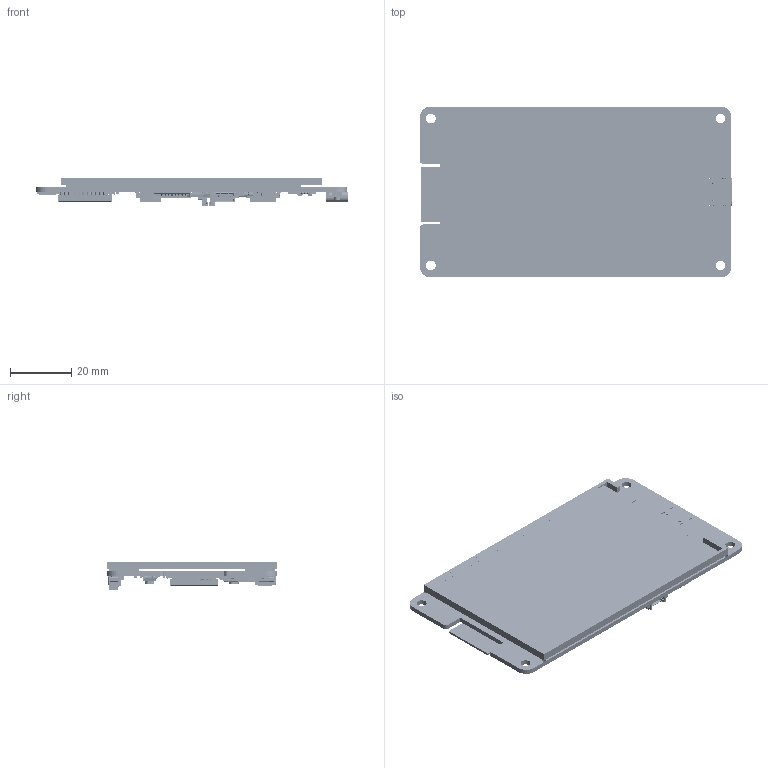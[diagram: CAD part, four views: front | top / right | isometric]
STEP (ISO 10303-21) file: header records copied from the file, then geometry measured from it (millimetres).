
FILE_DESCRIPTION(('Open CASCADE Model'),'2;1');
FILE_NAME('Open CASCADE Shape Model','2024-08-23T15:34:17',('Author'),( 'Open CASCADE'),'Open CASCADE STEP processor 6.8','Open CASCADE 6.8' ,'Unknown');
FILE_SCHEMA(('AUTOMOTIVE_DESIGN { 1 0 10303 214 1 1 1 1 }'));
Length unit declared in the file: millimetre
Products named in the file (324): PCB; Board; Open CASCADE STEP translator 6.8 2.1.1; Open CASCADE STEP translator 6.8 2.1.1.1; R23; 5989626112; R34; R33; R31; 5989622672; R30; 5989629632; R29; Q5; 5989620272; U2; ESP32-WROOM-32E_20210903; ESP32-WROOM-32E_20210903.STEP; PCB_ESP32-WROOM-32E_V1(2)^PCB_ESP32-WROOM-32E_V1.STEP; DesignRootModel^PCB_ESP32-WROOM-32E_V1(2)_PCB_ESP32-WROOM-32E_V1.STEP; Submodel-SLP48_5X5_part^DesignRootModel_PCB_ESP32-WROOM-32E_V1(2)_PCB_
ESP32-WROOM-32E_V1.STEP; ESP32_5x5_20210301.STEP^Submodel-SLP48_5X5_part_DesignRootModel_PCB_
ESP32-WROOM-32E_V1(2)_PCB_ESP32-WROOM-32E_V1.STEP; ESP32_5x5_20210301.STEP^ESP32_5x5_20210301.STEP_Submodel-SLP48_5X5_
part_DesignRootModel_PCB_ESP32-WROOM-32E_V1(2)_PCB_ESP32-WROOM-32E_
V1.STEP; Submodel-ANT_L_TYPEA_1501846164_part^DesignRootModel_PCB_
ESP32-WROOM-32E_V1(2)_PCB_ESP32-WROOM-32E_V1.STEP; trace_1^Submodel-ANT_L_TYPEA_1501846164_part_DesignRootModel_PCB_
ESP32-WROOM-32E_V1(2)_PCB_ESP32-WROOM-32E_V1.STEP; Submodel-SOD882_part^DesignRootModel_PCB_ESP32-WROOM-32E_V1(2)_PCB_
ESP32-WROOM-32E_V1.STEP; DFN1006.STEP^Submodel-SOD882_part_DesignRootModel_PCB_ESP32-WROOM-32E_
V1(2)_PCB_ESP32-WROOM-32E_V1.STEP; DFN1006.STEP^DFN1006.STEP_Submodel-SOD882_part_DesignRootModel_PCB_
ESP32-WROOM-32E_V1(2)_PCB_ESP32-WROOM-32E_V1.STEP; Submodel-R0201_part^DesignRootModel_PCB_ESP32-WROOM-32E_V1(2)_PCB_
ESP32-WROOM-32E_V1.STEP; R0201_20210301.STEP^Submodel-R0201_part_DesignRootModel_PCB_
ESP32-WROOM-32E_V1(2)_PCB_ESP32-WROOM-32E_V1.STEP; R0201_20210301.STEP^R0201_20210301.STEP_Submodel-R0201_part_
DesignRootModel_PCB_ESP32-WROOM-32E_V1(2)_PCB_ESP32-WROOM-32E_V1.STEP; Submodel-R0201_part^DesignRootModel_PCB_ESP32-WROOM-32E_V1(2)_PCB_
ESP32-WROOM-32E_V1-1.STEP; R0201_20210301.STEP^Submodel-R0201_part_DesignRootModel_PCB_
ESP32-WROOM-32E_V1(2)_PCB_ESP32-WROOM-32E_V1-1.STEP; Submodel-R0201_part^DesignRootModel_PCB_ESP32-WROOM-32E_V1(2)_PCB_
ESP32-WROOM-32E_V1-2.STEP; R0201_20210301.STEP^Submodel-R0201_part_DesignRootModel_PCB_
ESP32-WROOM-32E_V1(2)_PCB_ESP32-WROOM-32E_V1-2.STEP; Submodel-L0201_part^DesignRootModel_PCB_ESP32-WROOM-32E_V1(2)_PCB_
ESP32-WROOM-32E_V1.STEP; L0201_20210301.STEP^Submodel-L0201_part_DesignRootModel_PCB_
ESP32-WROOM-32E_V1(2)_PCB_ESP32-WROOM-32E_V1.STEP; L0201_20210301.STEP^L0201_20210301.STEP_Submodel-L0201_part_
DesignRootModel_PCB_ESP32-WROOM-32E_V1(2)_PCB_ESP32-WROOM-32E_V1.STEP; Submodel-L0201_part^DesignRootModel_PCB_ESP32-WROOM-32E_V1(2)_PCB_
ESP32-WROOM-32E_V1-1.STEP; L0201_20210301.STEP^Submodel-L0201_part_DesignRootModel_PCB_
ESP32-WROOM-32E_V1(2)_PCB_ESP32-WROOM-32E_V1-1.STEP ...
Assembly tree (442 placements, depth 9):
  PCB
    Board
      Open CASCADE STEP translator 6.8 2.1.1
        Open CASCADE STEP translator 6.8 2.1.1.1
    R23
      5989626112
    R34
      5989626112
    R33
      5989626112
    R31
      5989622672
    R30
      5989629632
    R29
      5989629632
    Q5
      5989620272
    U2
      ESP32-WROOM-32E_20210903
        ESP32-WROOM-32E_20210903.STEP
          PCB_ESP32-WROOM-32E_V1(2)^PCB_ESP32-WROOM-32E_V1.STEP
            DesignRootModel^PCB_ESP32-WROOM-32E_V1(2)_PCB_ESP32-WROOM-32E_V1.STEP
              Submodel-SLP48_5X5_part^DesignRootModel_PCB_ESP32-WROOM-32E_V1(2)_PCB_
ESP32-WROOM-32E_V1.STEP
                ESP32_5x5_20210301.STEP^Submodel-SLP48_5X5_part_DesignRootModel_PCB_
ESP32-WROOM-32E_V1(2)_PCB_ESP32-WROOM-32E_V1.STEP
                  ESP32_5x5_20210301.STEP^ESP32_5x5_20210301.STEP_Submodel-SLP48_5X5_
part_DesignRootModel_PCB_ESP32-WROOM-32E_V1(2)_PCB_ESP32-WROOM-32E_
V1.STEP
              Submodel-ANT_L_TYPEA_1501846164_part^DesignRootModel_PCB_
ESP32-WROOM-32E_V1(2)_PCB_ESP32-WROOM-32E_V1.STEP
                trace_1^Submodel-ANT_L_TYPEA_1501846164_part_DesignRootModel_PCB_
ESP32-WROOM-32E_V1(2)_PCB_ESP32-WROOM-32E_V1.STEP
              Submodel-SOD882_part^DesignRootModel_PCB_ESP32-WROOM-32E_V1(2)_PCB_
ESP32-WROOM-32E_V1.STEP
                DFN1006.STEP^Submodel-SOD882_part_DesignRootModel_PCB_ESP32-WROOM-32E_
V1(2)_PCB_ESP32-WROOM-32E_V1.STEP
                  DFN1006.STEP^DFN1006.STEP_Submodel-SOD882_part_DesignRootModel_PCB_
ESP32-WROOM-32E_V1(2)_PCB_ESP32-WROOM-32E_V1.STEP
              Submodel-R0201_part^DesignRootModel_PCB_ESP32-WROOM-32E_V1(2)_PCB_
ESP32-WROOM-32E_V1.STEP
                R0201_20210301.STEP^Submodel-R0201_part_DesignRootModel_PCB_
ESP32-WROOM-32E_V1(2)_PCB_ESP32-WROOM-32E_V1.STEP
                  R0201_20210301.STEP^R0201_20210301.STEP_Submodel-R0201_part_
DesignRootModel_PCB_ESP32-WROOM-32E_V1(2)_PCB_ESP32-WROOM-32E_V1.STEP
              Submodel-R0201_part^DesignRootModel_PCB_ESP32-WROOM-32E_V1(2)_PCB_
ESP32-WROOM-32E_V1-1.STEP
                R0201_20210301.STEP^Submodel-R0201_part_DesignRootModel_PCB_
ESP32-WROOM-32E_V1(2)_PCB_ESP32-WROOM-32E_V1-1.STEP
                  R0201_20210301.STEP^R0201_20210301.STEP_Submodel-R0201_part_
DesignRootModel_PCB_ESP32-WROOM-32E_V1(2)_PCB_ESP32-WROOM-32E_V1.STEP
              Submodel-R0201_part^DesignRootModel_PCB_ESP32-WROOM-32E_V1(2)_PCB_
ESP32-WROOM-32E_V1-2.STEP
                R0201_20210301.STEP^Submodel-R0201_part_DesignRootModel_PCB_
ESP32-WROOM-32E_V1(2)_PCB_ESP32-WROOM-32E_V1-2.STEP
                  R0201_20210301.STEP^R0201_20210301.STEP_Submodel-R0201_part_
DesignRootModel_PCB_ESP32-WROOM-32E_V1(2)_PCB_ESP32-WROOM-32E_V1.STEP
              Submodel-L0201_part^DesignRootModel_PCB_ESP32-WROOM-32E_V1(2)_PCB_
ESP32-WROOM-32E_V1.STEP
                L0201_20210301.STEP^Submodel-L0201_part_DesignRootModel_PCB_
ESP32-WROOM-32E_V1(2)_PCB_ESP32-WROOM-32E_V1.STEP
                  L0201_20210301.STEP^L0201_20210301.STEP_Submodel-L0201_part_
DesignRootModel_PCB_ESP32-WROOM-32E_V1(2)_PCB_ESP32-WROOM-32E_V1.STEP
              Submodel-L0201_part^DesignRootModel_PCB_ESP32-WROOM-32E_V1(2)_PCB_
ESP32-WROOM-32E_V1-1.STEP
                L0201_20210301.STEP^Submodel-L0201_part_DesignRootModel_PCB_
ESP32-WROOM-32E_V1(2)_PCB_ESP32-WROOM-32E_V1-1.STEP
                  L0201_20210301.STEP^L0201_20210301.STEP_Submodel-L0201_part_
DesignRootModel_PCB_ESP32-WROOM-32E_V1(2)_PCB_ESP32-WROOM-32E_V1.STEP
              Submodel-C0201_part^DesignRootModel_PCB_ESP32-WROOM-32E_V1(2)_PCB_
ESP32-WROOM-32E_V1.STEP
                C0201_20210301.STEP^Submodel-C0201_part_DesignRootModel_PCB_
ESP32-WROOM-32E_V1(2)_PCB_ESP32-WROOM-32E_V1.STEP
                  C0201_20210301.STEP^C0201_20210301.STEP_Submodel-C0201_part_
DesignRootModel_PCB_ESP32-WROOM-32E_V1(2)_PCB_ESP32-WROOM-32E_V1.STEP
              Submodel-C0201_part^DesignRootModel_PCB_ESP32-WROOM-32E_V1(2)_PCB_
ESP32-WROOM-32E_V1-1.STEP
                C0201_20210301.STEP^Submodel-C0201_part_DesignRootModel_PCB_
ESP32-WROOM-32E_V1(2)_PCB_ESP32-WROOM-32E_V1-1.STEP
                  C0201_20210301.STEP^C0201_20210301.STEP_Submodel-C0201_part_
DesignRootModel_PCB_ESP32-WROOM-32E_V1(2)_PCB_ESP32-WROOM-32E_V1.STEP
              Submodel-C0201_part^DesignRootModel_PCB_ESP32-WROOM-32E_V1(2)_PCB_
ESP32-WROOM-32E_V1-2.STEP
                C0201_20210301.STEP^Submodel-C0201_part_DesignRootModel_PCB_
ESP32-WROOM-32E_V1(2)_PCB_ESP32-WROOM-32E_V1-2.STEP
                  C0201_20210301.STEP^C0201_20210301.STEP_Submodel-C0201_part_
DesignRootModel_PCB_ESP32-WROOM-32E_V1(2)_PCB_ESP32-WROOM-32E_V1.STEP
              Submodel-C0201_part^DesignRootModel_PCB_ESP32-WROOM-32E_V1(2)_PCB_
ESP32-WROOM-32E_V1-3.STEP
                C0201_20210301.STEP^Submodel-C0201_part_DesignRootModel_PCB_
ESP32-WROOM-32E_V1(2)_PCB_ESP32-WROOM-32E_V1-3.STEP
                  C0201_20210301.STEP^C0201_20210301.STEP_Submodel-C0201_part_
DesignRootModel_PCB_ESP32-WROOM-32E_V1(2)_PCB_ESP32-WROOM-32E_V1.STEP
              Submodel-C0201_part^DesignRootModel_PCB_ESP32-WROOM-32E_V1(2)_PCB_
ESP32-WROOM-32E_V1-4.STEP
                C0201_20210301.STEP^Submodel-C0201_part_DesignRootModel_PCB_
ESP32-WROOM-32E_V1(2)_PCB_ESP32-WROOM-32E_V1-4.STEP
Bounding box: 101.97 x 55.7 x 9.3 mm (x, y, z)
Volume: 22070.2 mm3; surface area: 34072.5 mm2
Topology: 781 solids, 1698 shells, 16625 faces, 44128 edges, 30116 vertices
Faces by surface type: plane 9754, bspline 3676, cylinder 2817, sphere 364, torus 7, cone 7
Full cylindrical faces by diameter (mm): 1 x2, 1.2 x3, 3.2 x4
Entity records: 289139 total; most frequent: CARTESIAN_POINT 90616, ORIENTED_EDGE 33518, DIRECTION 31945, EDGE_CURVE 19311, LINE 14601, VECTOR 14601, VERTEX_POINT 14301, AXIS2_PLACEMENT_3D 8672
